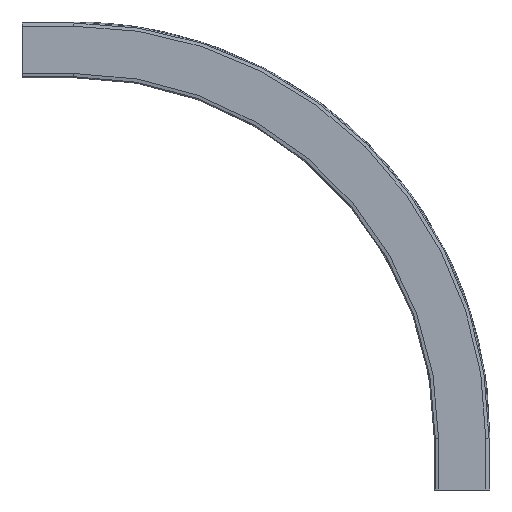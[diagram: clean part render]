
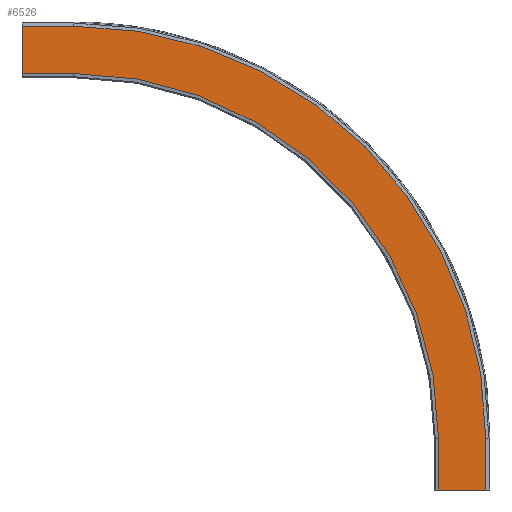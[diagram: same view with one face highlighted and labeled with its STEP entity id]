
A CAD part, front view. The second image highlights one B-rep face of the part: STEP entity #6526.
In plain terms, the highlighted planar face has unit normal (0, -1, 0).
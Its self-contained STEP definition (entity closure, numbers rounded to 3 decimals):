
#6157=CARTESIAN_POINT('',(36.5,-11.,0.0));
#6158=VERTEX_POINT('',#6157);
#6165=CARTESIAN_POINT('',(-36.5,-11.,0.0));
#6166=VERTEX_POINT('',#6165);
#6167=CARTESIAN_POINT('',(-36.5,-11.,0.0));
#6168=DIRECTION('',(1.0,0.0,0.0));
#6169=VECTOR('',#6168,73.);
#6170=LINE('',#6167,#6169);
#6171=EDGE_CURVE('',#6166,#6158,#6170,.T.);
#6237=CARTESIAN_POINT('',(-36.5,-11.,80.0));
#6238=VERTEX_POINT('',#6237);
#6252=CARTESIAN_POINT('',(-36.5,-11.,0.0));
#6253=DIRECTION('',(0.0,0.0,1.0));
#6254=VECTOR('',#6253,80.0);
#6255=LINE('',#6252,#6254);
#6256=EDGE_CURVE('',#6166,#6238,#6255,.T.);
#6266=CARTESIAN_POINT('',(36.5,-11.,80.0));
#6267=VERTEX_POINT('',#6266);
#6276=CARTESIAN_POINT('',(36.5,-11.,0.0));
#6277=DIRECTION('',(0.0,0.0,1.0));
#6278=VECTOR('',#6277,80.0);
#6279=LINE('',#6276,#6278);
#6280=EDGE_CURVE('',#6158,#6267,#6279,.T.);
#6353=CARTESIAN_POINT('',(-600.,-11.,716.5));
#6354=VERTEX_POINT('',#6353);
#6363=CARTESIAN_POINT('',(-600.0,-11.,80.0));
#6364=DIRECTION('',(0.0,-1.0,0.0));
#6365=DIRECTION('',(1.0,0.0,0.0));
#6366=AXIS2_PLACEMENT_3D('',#6363,#6364,#6365);
#6367=CIRCLE('',#6366,636.5);
#6368=EDGE_CURVE('',#6267,#6354,#6367,.T.);
#6420=CARTESIAN_POINT('',(-600.,-11.,643.5));
#6421=VERTEX_POINT('',#6420);
#6436=CARTESIAN_POINT('',(-600.0,-11.,80.0));
#6437=DIRECTION('',(0.0,-1.0,0.0));
#6438=DIRECTION('',(1.0,0.0,0.0));
#6439=AXIS2_PLACEMENT_3D('',#6436,#6437,#6438);
#6440=CIRCLE('',#6439,563.5);
#6441=EDGE_CURVE('',#6238,#6421,#6440,.T.);
#6480=CARTESIAN_POINT('',(-680.,-11.,643.5));
#6481=VERTEX_POINT('',#6480);
#6490=CARTESIAN_POINT('',(-600.,-11.,643.5));
#6491=DIRECTION('',(-1.0,0.0,0.0));
#6492=VECTOR('',#6491,80.);
#6493=LINE('',#6490,#6492);
#6494=EDGE_CURVE('',#6421,#6481,#6493,.T.);
#6499=CARTESIAN_POINT('',(422.478,-11.,716.5));
#6500=DIRECTION('',(0.0,-1.0,0.0));
#6501=DIRECTION('',(1.0,0.0,0.0));
#6502=AXIS2_PLACEMENT_3D('',#6499,#6500,#6501);
#6503=PLANE('',#6502);
#6504=CARTESIAN_POINT('',(-680.,-11.,716.5));
#6505=VERTEX_POINT('',#6504);
#6506=CARTESIAN_POINT('',(-680.,-11.,716.5));
#6507=DIRECTION('',(0.0,0.0,-1.0));
#6508=VECTOR('',#6507,73.);
#6509=LINE('',#6506,#6508);
#6510=EDGE_CURVE('',#6505,#6481,#6509,.T.);
#6511=ORIENTED_EDGE('',*,*,#6510,.T.);
#6512=ORIENTED_EDGE('',*,*,#6494,.F.);
#6513=ORIENTED_EDGE('',*,*,#6441,.F.);
#6514=ORIENTED_EDGE('',*,*,#6256,.F.);
#6515=ORIENTED_EDGE('',*,*,#6171,.T.);
#6516=ORIENTED_EDGE('',*,*,#6280,.T.);
#6517=ORIENTED_EDGE('',*,*,#6368,.T.);
#6518=CARTESIAN_POINT('',(-600.,-11.,716.5));
#6519=DIRECTION('',(-1.0,0.0,0.0));
#6520=VECTOR('',#6519,80.);
#6521=LINE('',#6518,#6520);
#6522=EDGE_CURVE('',#6354,#6505,#6521,.T.);
#6523=ORIENTED_EDGE('',*,*,#6522,.T.);
#6524=EDGE_LOOP('',(#6511,#6512,#6513,#6514,#6515,#6516,#6517,#6523));
#6525=FACE_OUTER_BOUND('',#6524,.T.);
#6526=ADVANCED_FACE('',(#6525),#6503,.T.);
